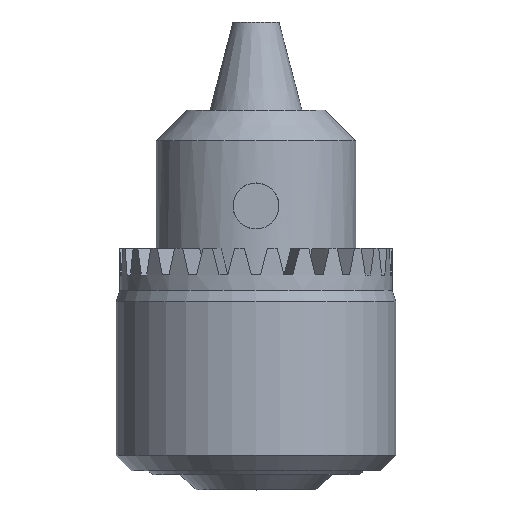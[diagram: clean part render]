
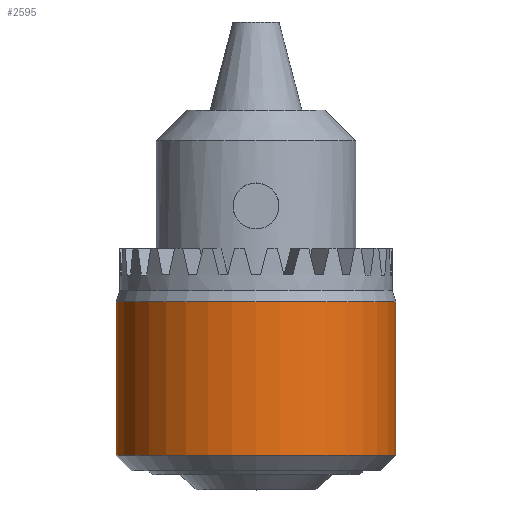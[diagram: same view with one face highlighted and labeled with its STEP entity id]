
A CAD part, top view. The second image highlights one B-rep face of the part: STEP entity #2595.
In plain terms, the highlighted cylindrical face has radius 18.25 mm (diameter 36.5 mm), a partial arc.
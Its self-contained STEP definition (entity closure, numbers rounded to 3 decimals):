
#140=CARTESIAN_POINT('',(0.,4.5,0.));
#141=DIRECTION('',(0.,-1.,0.));
#142=DIRECTION('',(1.,0.,0.));
#143=AXIS2_PLACEMENT_3D('',#140,#141,#142);
#145=DIRECTION('',(0.,-1.,0.));
#146=VECTOR('',#145,20.);
#147=CARTESIAN_POINT('',(-18.25,24.5,0.));
#148=LINE('',#147,#146);
#149=CARTESIAN_POINT('',(0.,24.5,0.));
#150=DIRECTION('',(0.,1.,0.));
#151=DIRECTION('',(-1.,0.,0.));
#152=AXIS2_PLACEMENT_3D('',#149,#150,#151);
#154=DIRECTION('',(0.,-1.,0.));
#155=VECTOR('',#154,20.);
#156=CARTESIAN_POINT('',(18.25,24.5,0.));
#157=LINE('',#156,#155);
#1934=CARTESIAN_POINT('',(-18.25,24.5,0.));
#1935=VERTEX_POINT('',#1934);
#1954=CARTESIAN_POINT('',(18.25,24.5,0.));
#1955=VERTEX_POINT('',#1954);
#1978=CARTESIAN_POINT('',(-18.25,4.5,0.));
#1979=CARTESIAN_POINT('',(18.25,4.5,0.));
#1980=VERTEX_POINT('',#1978);
#1981=VERTEX_POINT('',#1979);
#2581=CARTESIAN_POINT('',(0.,51.975,0.));
#2582=DIRECTION('',(0.,-1.,0.));
#2583=DIRECTION('',(-1.,0.,0.));
#2584=AXIS2_PLACEMENT_3D('',#2581,#2582,#2583);
#2585=CYLINDRICAL_SURFACE('',#2584,18.25);
#2586=ORIENTED_EDGE('',*,*,#2568,.T.);
#2588=ORIENTED_EDGE('',*,*,#2587,.F.);
#2590=ORIENTED_EDGE('',*,*,#2589,.T.);
#2592=ORIENTED_EDGE('',*,*,#2591,.T.);
#2593=EDGE_LOOP('',(#2586,#2588,#2590,#2592));
#2594=FACE_OUTER_BOUND('',#2593,.F.);
#2595=ADVANCED_FACE('',(#2594),#2585,.T.);
#144=CIRCLE('',#143,18.25);
#153=CIRCLE('',#152,18.25);
#2568=EDGE_CURVE('',#1981,#1980,#144,.T.);
#2587=EDGE_CURVE('',#1935,#1980,#148,.T.);
#2589=EDGE_CURVE('',#1935,#1955,#153,.T.);
#2591=EDGE_CURVE('',#1955,#1981,#157,.T.);
